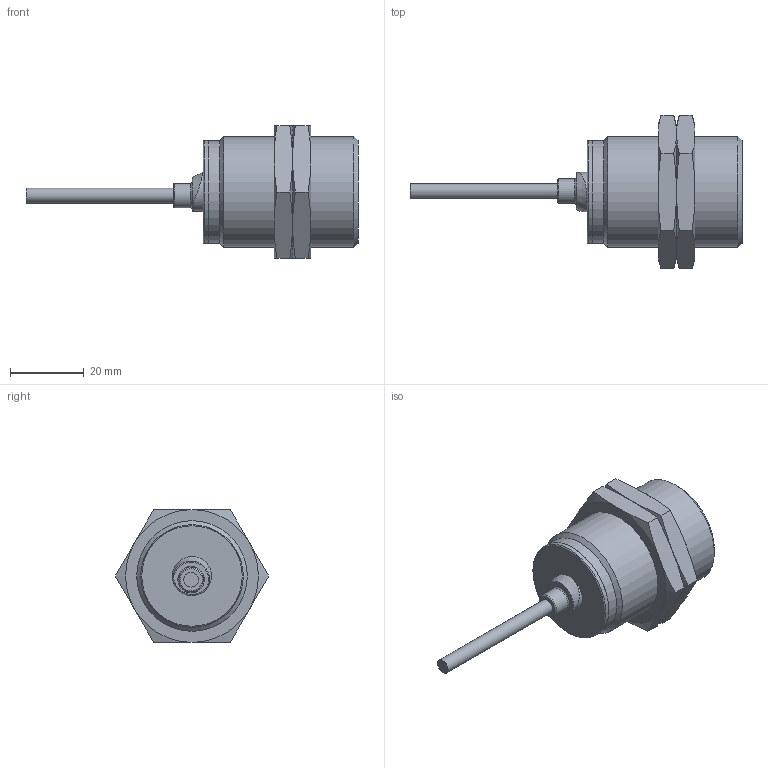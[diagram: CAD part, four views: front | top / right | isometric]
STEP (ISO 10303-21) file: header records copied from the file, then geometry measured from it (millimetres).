
FILE_DESCRIPTION( ( 'STEP AP203' ), '1' );
FILE_NAME( 'p:/temp/worker_69/3792_2416/app_51_02015052110521157162408192d056f_00_00_00_000/STEP/IIS242_2_03.stp', ' ', ( ' ' ), ( ' ' ), 'PSStep 15.0.47', 'PARTsolutions', ' ' );
FILE_SCHEMA( ( 'CONFIG_CONTROL_DESIGN' ) );
Length unit declared in the file: millimetre
Products named in the file (3): IIS242; _IIS242_p1; _IIS208_p2
Assembly tree (3 placements, depth 2):
  IIS242
    _IIS242_p1
    _IIS208_p2  x2
Bounding box: 90 x 41.57 x 36 mm (x, y, z)
Volume: 34726.4 mm3; surface area: 9705.3 mm2
Topology: 3 solids, 3 shells, 66 faces, 135 edges, 79 vertices
Faces by surface type: cone 31, plane 22, cylinder 8, torus 5
Full cylindrical faces by diameter (mm): 4 x1, 6.6 x1, 10.6 x1, 27.8 x1, 27.82 x1, 28.376 x2, 30 x1
Entity records: 1262 total; most frequent: CARTESIAN_POINT 351, DIRECTION 170, ORIENTED_EDGE 140, AXIS2_PLACEMENT_3D 82, EDGE_CURVE 70, EDGE_LOOP 63, FACE_OUTER_BOUND 53, VERTEX_POINT 49
